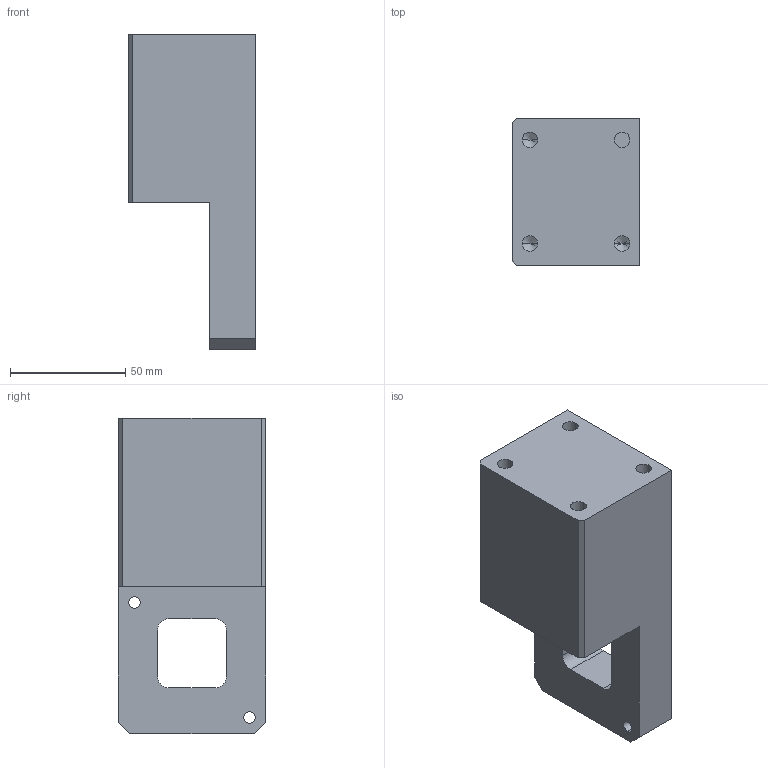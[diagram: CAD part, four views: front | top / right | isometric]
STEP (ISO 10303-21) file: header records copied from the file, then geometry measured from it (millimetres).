
FILE_DESCRIPTION (( 'STEP AP203' ), '1' );
FILE_NAME ('YWSD-2026-03-01-05-02=007 ァ詰菜輸.STEP', '2026-07-24T07:44:28', ( 'Windows 蚚誧' ), ( '' ), 'SwSTEP 2.0', 'SolidWorks 2024', '' );
FILE_SCHEMA (( 'CONFIG_CONTROL_DESIGN' ));
Length unit declared in the file: millimetre
Products named in the file (1): YWSD-2026-03-01-05-02=007 气缸垫块
Bounding box: 55.5 x 64 x 137.05 mm (x, y, z)
Volume: 307198.2 mm3; surface area: 37716.8 mm2
Topology: 1 solids, 1 shells, 43 faces, 117 edges, 73 vertices
Faces by surface type: plane 21, cylinder 16, cone 6
Entity records: 1406 total; most frequent: DIRECTION 231, CARTESIAN_POINT 228, ORIENTED_EDGE 222, EDGE_CURVE 111, VECTOR 79, LINE 79, AXIS2_PLACEMENT_3D 76, VERTEX_POINT 73
